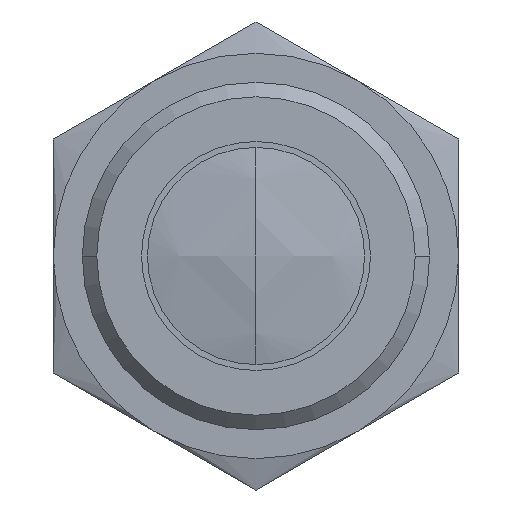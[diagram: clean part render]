
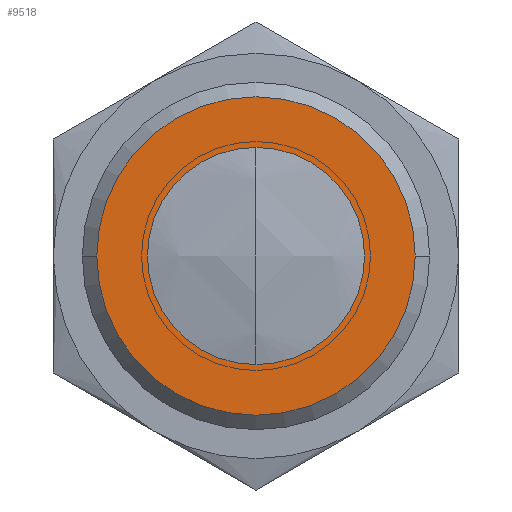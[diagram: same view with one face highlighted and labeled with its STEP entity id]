
A CAD part, left-side view. The second image highlights one B-rep face of the part: STEP entity #9518.
In plain terms, the highlighted planar face has unit normal (-1, 0, 0).
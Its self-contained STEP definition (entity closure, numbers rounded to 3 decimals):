
#3312=CARTESIAN_POINT('',(-180.55,0.,-0.8));
#3313=DIRECTION('',(-1.,0.,0.));
#3314=DIRECTION('',(0.,-1.,0.));
#3315=AXIS2_PLACEMENT_3D('',#3312,#3313,#3314);
#3334=CARTESIAN_POINT('',(-180.55,0.,-0.8));
#3335=DIRECTION('',(1.,0.,0.));
#3336=DIRECTION('',(0.,-1.,0.));
#3337=AXIS2_PLACEMENT_3D('',#3334,#3335,#3336);
#3342=CARTESIAN_POINT('',(-180.55,0.,-0.8));
#3343=DIRECTION('',(1.,0.,0.));
#3344=DIRECTION('',(0.,-1.,0.));
#3345=AXIS2_PLACEMENT_3D('',#3342,#3343,#3344);
#3350=CARTESIAN_POINT('',(-180.55,0.,-0.8));
#3351=DIRECTION('',(-1.,0.,0.));
#3352=DIRECTION('',(0.,-1.,0.));
#3353=AXIS2_PLACEMENT_3D('',#3350,#3351,#3352);
#3607=CARTESIAN_POINT('',(-180.55,-3.75,-0.8));
#3609=VERTEX_POINT('',#3607);
#3610=CARTESIAN_POINT('',(-180.55,-5.5,-0.8));
#3612=VERTEX_POINT('',#3610);
#3625=CARTESIAN_POINT('',(-180.55,3.75,-0.8));
#3627=VERTEX_POINT('',#3625);
#3628=CARTESIAN_POINT('',(-180.55,5.5,-0.8));
#3630=VERTEX_POINT('',#3628);
#9503=CARTESIAN_POINT('',(-180.55,0.,-0.8));
#9504=DIRECTION('',(-1.,0.,0.));
#9505=DIRECTION('',(0.,1.,0.));
#9506=AXIS2_PLACEMENT_3D('',#9503,#9504,#9505);
#9507=PLANE('',#9506);
#9508=ORIENTED_EDGE('',*,*,#9468,.F.);
#9509=ORIENTED_EDGE('',*,*,#9491,.T.);
#9510=EDGE_LOOP('',(#9508,#9509));
#9511=FACE_OUTER_BOUND('',#9510,.F.);
#9513=ORIENTED_EDGE('',*,*,#9512,.F.);
#9515=ORIENTED_EDGE('',*,*,#9514,.T.);
#9516=EDGE_LOOP('',(#9513,#9515));
#9517=FACE_BOUND('',#9516,.F.);
#3316=CIRCLE('',#3315,5.5);
#3338=CIRCLE('',#3337,5.5);
#3346=CIRCLE('',#3345,3.75);
#3354=CIRCLE('',#3353,3.75);
#9468=EDGE_CURVE('',#3612,#3630,#3316,.T.);
#9491=EDGE_CURVE('',#3612,#3630,#3338,.T.);
#9512=EDGE_CURVE('',#3609,#3627,#3346,.T.);
#9514=EDGE_CURVE('',#3609,#3627,#3354,.T.);
#9518=ADVANCED_FACE('',(#9511,#9517),#9507,.T.);
